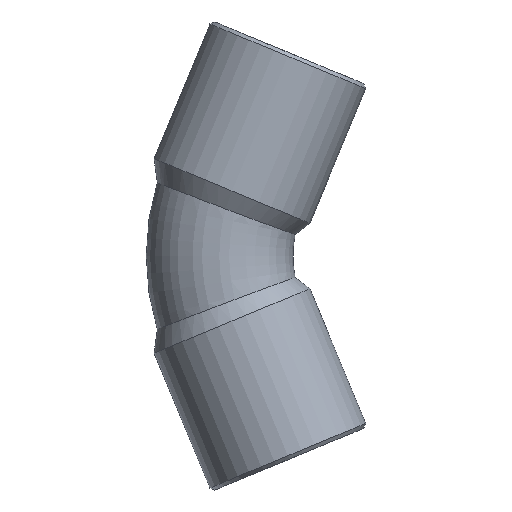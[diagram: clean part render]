
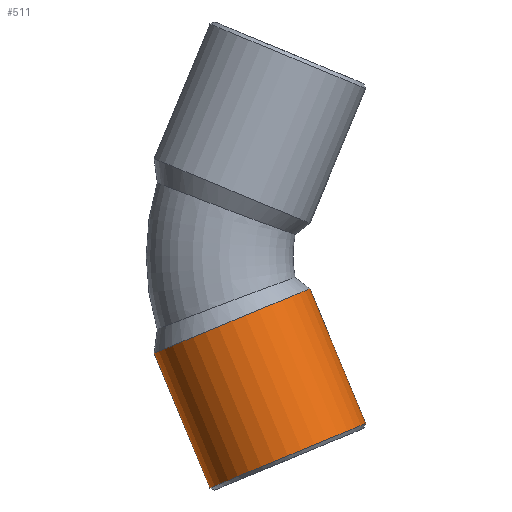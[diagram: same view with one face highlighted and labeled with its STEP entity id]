
A CAD part, front view. The second image highlights one B-rep face of the part: STEP entity #511.
In plain terms, the highlighted cylindrical face has radius 4.6 mm (diameter 9.2 mm), a partial arc.
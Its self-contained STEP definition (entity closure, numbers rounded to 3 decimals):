
#201=CARTESIAN_POINT('',(-8.737,0.,-5.307));
#202=VERTEX_POINT('',#201);
#209=CARTESIAN_POINT('',(-0.237,0.,-1.787));
#210=VERTEX_POINT('',#209);
#211=CARTESIAN_POINT('',(-4.487,0.,-3.547));
#212=DIRECTION('',(-0.383,0.,0.924));
#213=DIRECTION('',(0.924,0.0,0.383));
#214=AXIS2_PLACEMENT_3D('',#211,#212,#213);
#215=CIRCLE('',#214,4.6);
#216=EDGE_CURVE('',#202,#210,#215,.T.);
#480=CARTESIAN_POINT('',(-4.425,0.,-3.696));
#481=DIRECTION('',(0.383,0.,-0.924));
#482=DIRECTION('',(0.924,0.0,0.383));
#483=AXIS2_PLACEMENT_3D('',#480,#481,#482);
#484=CYLINDRICAL_SURFACE('',#483,4.6);
#485=CARTESIAN_POINT('',(2.81,0.,-9.141));
#486=VERTEX_POINT('',#485);
#487=CARTESIAN_POINT('',(-0.237,0.,-1.787));
#488=DIRECTION('',(0.383,0.,-0.924));
#489=VECTOR('',#488,7.961);
#490=LINE('',#487,#489);
#491=EDGE_CURVE('',#210,#486,#490,.T.);
#492=ORIENTED_EDGE('',*,*,#491,.F.);
#493=ORIENTED_EDGE('',*,*,#216,.F.);
#494=CARTESIAN_POINT('',(-5.69,0.,-12.662));
#495=VERTEX_POINT('',#494);
#496=CARTESIAN_POINT('',(-5.69,0.,-12.662));
#497=DIRECTION('',(-0.383,0.,0.924));
#498=VECTOR('',#497,7.961);
#499=LINE('',#496,#498);
#500=EDGE_CURVE('',#495,#202,#499,.T.);
#501=ORIENTED_EDGE('',*,*,#500,.F.);
#502=CARTESIAN_POINT('',(-1.44,0.,-10.902));
#503=DIRECTION('',(0.383,0.,-0.924));
#504=DIRECTION('',(0.924,0.0,0.383));
#505=AXIS2_PLACEMENT_3D('',#502,#503,#504);
#506=CIRCLE('',#505,4.6);
#507=EDGE_CURVE('',#486,#495,#506,.T.);
#508=ORIENTED_EDGE('',*,*,#507,.F.);
#509=EDGE_LOOP('',(#492,#493,#501,#508));
#510=FACE_OUTER_BOUND('',#509,.T.);
#511=ADVANCED_FACE('',(#510),#484,.T.);
